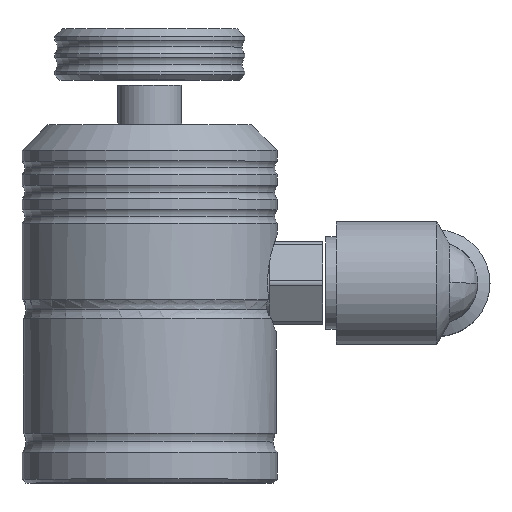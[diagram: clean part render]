
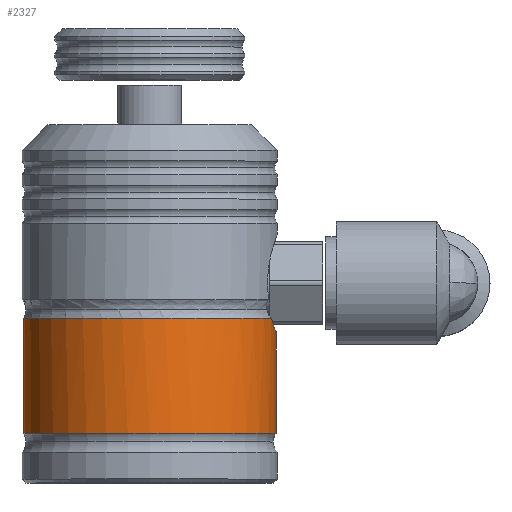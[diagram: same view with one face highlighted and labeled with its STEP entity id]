
A CAD part, top view. The second image highlights one B-rep face of the part: STEP entity #2327.
In plain terms, the highlighted cylindrical face has radius 12.319 mm (diameter 24.638 mm), a partial arc.
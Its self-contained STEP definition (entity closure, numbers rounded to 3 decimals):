
#153 = VERTEX_POINT ( 'NONE', #1254 ) ;
#207 = DIRECTION ( 'NONE',  ( -1., 0., 0. ) ) ;
#268 = CARTESIAN_POINT ( 'NONE',  ( 11.877, 16.038, 3.271 ) ) ;
#312 = AXIS2_PLACEMENT_3D ( 'NONE', #4304, #4237, #1077 ) ;
#335 = ORIENTED_EDGE ( 'NONE', *, *, #1181, .F. ) ;
#455 = CARTESIAN_POINT ( 'NONE',  ( 11.995, 15.65, 2.819 ) ) ;
#621 = ORIENTED_EDGE ( 'NONE', *, *, #2790, .T. ) ;
#779 = CARTESIAN_POINT ( 'NONE',  ( 0., 4.837, 0. ) ) ;
#888 = CARTESIAN_POINT ( 'NONE',  ( 12.102, 15.329, 2.318 ) ) ;
#919 = CARTESIAN_POINT ( 'NONE',  ( 12.232, 14.966, 1.489 ) ) ;
#1077 = DIRECTION ( 'NONE',  ( -1., 0., 0. ) ) ;
#1143 = VERTEX_POINT ( 'NONE', #6849 ) ;
#1181 = EDGE_CURVE ( 'NONE', #3439, #1143, #6195, .T. ) ;
#1254 = CARTESIAN_POINT ( 'NONE',  ( 12.319, 4.837, 0. ) ) ;
#1434 = DIRECTION ( 'NONE',  ( -1., 0., 0. ) ) ;
#1455 = ORIENTED_EDGE ( 'NONE', *, *, #2993, .T. ) ;
#1816 = CARTESIAN_POINT ( 'NONE',  ( -12.319, 16.038, 0. ) ) ;
#1915 = VERTEX_POINT ( 'NONE', #3662 ) ;
#2261 = EDGE_CURVE ( 'NONE', #5526, #3439, #3408, .T. ) ;
#2327 = ADVANCED_FACE ( 'NONE', ( #5947 ), #6931, .T. ) ;
#2379 = AXIS2_PLACEMENT_3D ( 'NONE', #779, #2900, #207 ) ;
#2479 = CARTESIAN_POINT ( 'NONE',  ( -12.319, 6., 0. ) ) ;
#2500 = CIRCLE ( 'NONE', #2379, 12.319 ) ;
#2515 = DIRECTION ( 'NONE',  ( 0., 1., 0. ) ) ;
#2578 = LINE ( 'NONE', #2479, #3101 ) ;
#2613 = CARTESIAN_POINT ( 'NONE',  ( 12.264, 14.882, 1.202 ) ) ;
#2652 = CARTESIAN_POINT ( 'NONE',  ( 0., 16.038, 0. ) ) ;
#2790 = EDGE_CURVE ( 'NONE', #153, #1143, #3975, .T. ) ;
#2900 = DIRECTION ( 'NONE',  ( 0., 1., 0. ) ) ;
#2993 = EDGE_CURVE ( 'NONE', #1915, #153, #2500, .T. ) ;
#3048 = CARTESIAN_POINT ( 'NONE',  ( 12.151, 15.19, 2.049 ) ) ;
#3101 = VECTOR ( 'NONE', #2515, 1000. ) ;
#3408 = CIRCLE ( 'NONE', #4544, 12.319 ) ;
#3439 = VERTEX_POINT ( 'NONE', #268 ) ;
#3579 = CARTESIAN_POINT ( 'NONE',  ( 11.937, 15.832, 3.053 ) ) ;
#3662 = CARTESIAN_POINT ( 'NONE',  ( -12.319, 4.837, 0. ) ) ;
#3975 = LINE ( 'NONE', #5728, #5332 ) ;
#4237 = DIRECTION ( 'NONE',  ( 0., 1., 0. ) ) ;
#4304 = CARTESIAN_POINT ( 'NONE',  ( 0., 6., 0. ) ) ;
#4544 = AXIS2_PLACEMENT_3D ( 'NONE', #2652, #4826, #1434 ) ;
#4826 = DIRECTION ( 'NONE',  ( 0., 1., 0. ) ) ;
#5093 = DIRECTION ( 'NONE',  ( 0., 1., 0. ) ) ;
#5296 = EDGE_LOOP ( 'NONE', ( #1455, #621, #335, #6179, #6933 ) ) ;
#5300 = CARTESIAN_POINT ( 'NONE',  ( 12.307, 14.767, 0.61 ) ) ;
#5332 = VECTOR ( 'NONE', #5093, 1000. ) ;
#5526 = VERTEX_POINT ( 'NONE', #1816 ) ;
#5728 = CARTESIAN_POINT ( 'NONE',  ( 12.319, 6., 0. ) ) ;
#5810 = EDGE_CURVE ( 'NONE', #1915, #5526, #2578, .T. ) ;
#5947 = FACE_OUTER_BOUND ( 'NONE', #5296, .T. ) ;
#6179 = ORIENTED_EDGE ( 'NONE', *, *, #2261, .F. ) ;
#6195 = B_SPLINE_CURVE_WITH_KNOTS ( 'NONE', 3,
 ( #6914, #3579, #455, #888, #3048, #919, #2613, #5300, #6385, #6946 ),
 .UNSPECIFIED., .F., .F.,
 ( 4, 2, 2, 2, 4 ),
 ( 0., 0.001, 0.002, 0.003, 0.004 ),
 .UNSPECIFIED. ) ;
#6385 = CARTESIAN_POINT ( 'NONE',  ( 12.319, 14.738, 0.303 ) ) ;
#6849 = CARTESIAN_POINT ( 'NONE',  ( 12.319, 14.738, 0. ) ) ;
#6914 = CARTESIAN_POINT ( 'NONE',  ( 11.877, 16.038, 3.271 ) ) ;
#6931 = CYLINDRICAL_SURFACE ( 'NONE', #312, 12.319 ) ;
#6933 = ORIENTED_EDGE ( 'NONE', *, *, #5810, .F. ) ;
#6946 = CARTESIAN_POINT ( 'NONE',  ( 12.319, 14.738, 0. ) ) ;
